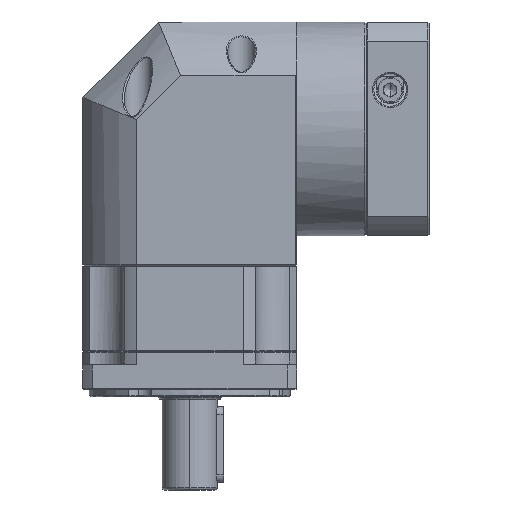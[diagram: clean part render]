
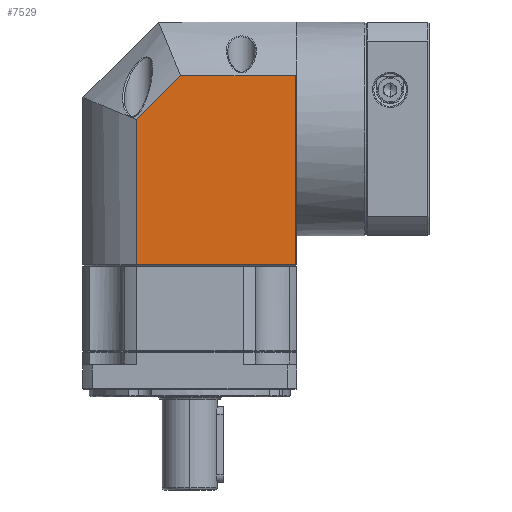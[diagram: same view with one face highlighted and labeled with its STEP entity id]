
A CAD part, front view. The second image highlights one B-rep face of the part: STEP entity #7529.
In plain terms, the highlighted planar face has unit normal (0, -1, 0).
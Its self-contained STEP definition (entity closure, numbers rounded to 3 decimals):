
#2459 = DIRECTION ( 'NONE',  ( 1., 0., 0. ) ) ;
#4783 = DIRECTION ( 'NONE',  ( 0., 1., 0. ) ) ;
#7529 = ADVANCED_FACE ( 'NONE', ( #125452 ), #31557, .F. ) ;
#15269 = VECTOR ( 'NONE', #61655, 1000. ) ;
#16227 = EDGE_CURVE ( 'NONE', #117733, #112245, #151458, .T. ) ;
#24172 = AXIS2_PLACEMENT_3D ( 'NONE', #86196, #4783, #99753 ) ;
#27077 = CARTESIAN_POINT ( 'NONE',  ( -123.807, 10.778, -49.634 ) ) ;
#27297 = EDGE_CURVE ( 'NONE', #78528, #66514, #49256, .T. ) ;
#27687 = EDGE_LOOP ( 'NONE', ( #78379, #69491, #152982, #160682, #76234 ) ) ;
#30474 = CARTESIAN_POINT ( 'NONE',  ( -187.02, 10.778, 8.048 ) ) ;
#31557 = PLANE ( 'NONE',  #24172 ) ;
#49256 = LINE ( 'NONE', #83851, #121309 ) ;
#60751 = CARTESIAN_POINT ( 'NONE',  ( -187.02, 10.778, -49.634 ) ) ;
#61655 = DIRECTION ( 'NONE',  ( 0., 0., -1. ) ) ;
#66514 = VERTEX_POINT ( 'NONE', #135814 ) ;
#69491 = ORIENTED_EDGE ( 'NONE', *, *, #159661, .F. ) ;
#69999 = VECTOR ( 'NONE', #137032, 1000. ) ;
#76234 = ORIENTED_EDGE ( 'NONE', *, *, #16227, .F. ) ;
#78379 = ORIENTED_EDGE ( 'NONE', *, *, #147004, .T. ) ;
#78528 = VERTEX_POINT ( 'NONE', #155946 ) ;
#82943 = LINE ( 'NONE', #164285, #150686 ) ;
#83851 = CARTESIAN_POINT ( 'NONE',  ( -123.307, 10.778, 25.579 ) ) ;
#86196 = CARTESIAN_POINT ( 'NONE',  ( -123.307, 10.778, 46.866 ) ) ;
#92276 = VERTEX_POINT ( 'NONE', #27077 ) ;
#96887 = DIRECTION ( 'NONE',  ( 0.707, 0., 0.707 ) ) ;
#99753 = DIRECTION ( 'NONE',  ( -1., 0., 0. ) ) ;
#111158 = VECTOR ( 'NONE', #116789, 1000. ) ;
#112245 = VERTEX_POINT ( 'NONE', #30474 ) ;
#116789 = DIRECTION ( 'NONE',  ( 0., 0., 1. ) ) ;
#117733 = VERTEX_POINT ( 'NONE', #60751 ) ;
#121309 = VECTOR ( 'NONE', #2459, 1000. ) ;
#123480 = CARTESIAN_POINT ( 'NONE',  ( -123.307, 10.778, -49.634 ) ) ;
#125452 = FACE_OUTER_BOUND ( 'NONE', #27687, .T. ) ;
#128947 = EDGE_CURVE ( 'NONE', #112245, #78528, #82943, .T. ) ;
#135814 = CARTESIAN_POINT ( 'NONE',  ( -123.807, 10.778, 25.579 ) ) ;
#137032 = DIRECTION ( 'NONE',  ( 1., 0., 0. ) ) ;
#142015 = LINE ( 'NONE', #123480, #69999 ) ;
#144023 = CARTESIAN_POINT ( 'NONE',  ( -187.02, 10.778, 46.866 ) ) ;
#147004 = EDGE_CURVE ( 'NONE', #117733, #92276, #142015, .T. ) ;
#150686 = VECTOR ( 'NONE', #96887, 1000. ) ;
#151458 = LINE ( 'NONE', #144023, #111158 ) ;
#152982 = ORIENTED_EDGE ( 'NONE', *, *, #27297, .F. ) ;
#155249 = LINE ( 'NONE', #156367, #15269 ) ;
#155946 = CARTESIAN_POINT ( 'NONE',  ( -169.489, 10.778, 25.579 ) ) ;
#156367 = CARTESIAN_POINT ( 'NONE',  ( -123.807, 10.778, 46.866 ) ) ;
#159661 = EDGE_CURVE ( 'NONE', #66514, #92276, #155249, .T. ) ;
#160682 = ORIENTED_EDGE ( 'NONE', *, *, #128947, .F. ) ;
#164285 = CARTESIAN_POINT ( 'NONE',  ( -187.02, 10.778, 8.048 ) ) ;
